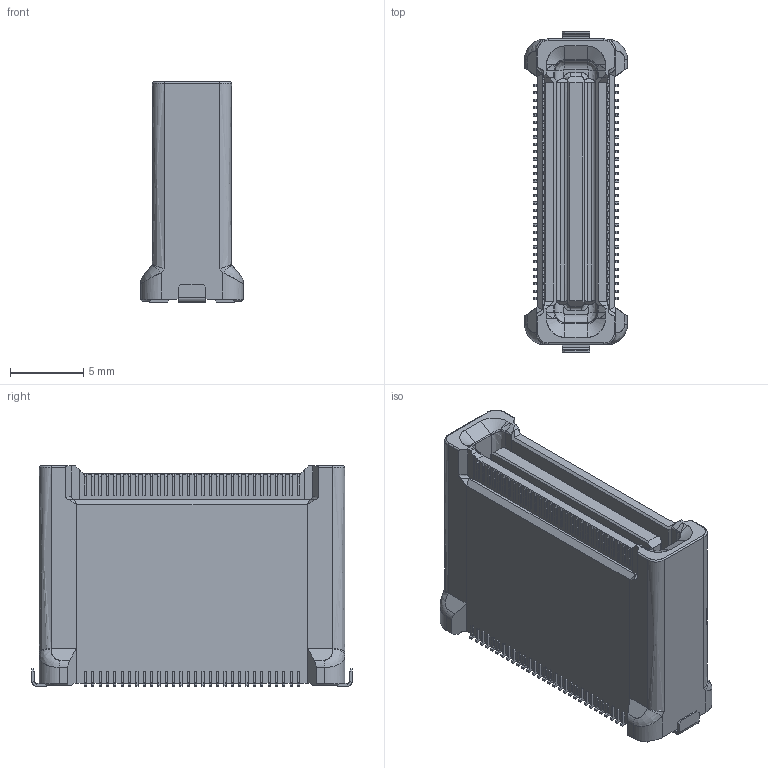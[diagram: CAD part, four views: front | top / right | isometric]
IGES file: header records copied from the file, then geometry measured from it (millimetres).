
Start section: SolidWorks IGES file using analytic representation for surfaces
Global section: file name: C:\Users\KamikawaHisako　(神河　久\Desktop\新しいフォルダー\24_5656_060_711_829+T.IGS; native system: SolidWorks 2023; preprocessor: SolidWorks 2023; author: KamikawaHisako　(神河　久,,11,; organization: 0; date: 240926.145107; units: millimetre
Bounding box: 7 x 21.8 x 15 mm (x, y, z)
Surface area: 1244.3 mm2 (no closed solid volume)
Topology: 0 solids, 0 shells, 1110 faces, 6972 edges, 6972 vertices
Faces by surface type: bspline 920, revolution 190
